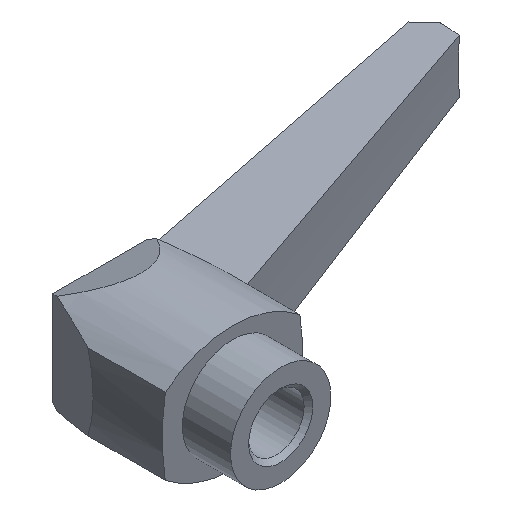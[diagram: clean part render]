
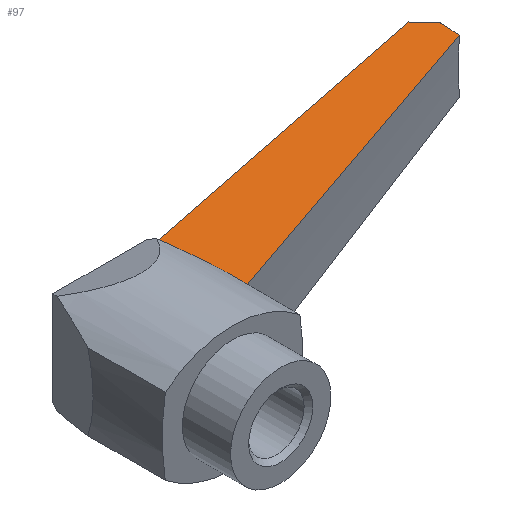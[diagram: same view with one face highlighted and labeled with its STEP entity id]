
A CAD part, isometric view. The second image highlights one B-rep face of the part: STEP entity #97.
In plain terms, the highlighted planar face has unit normal (0.035, 0, 0.999).
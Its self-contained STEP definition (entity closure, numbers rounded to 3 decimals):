
#97 = ADVANCED_FACE( '', ( #152 ), #153, .T. );
#152 = FACE_OUTER_BOUND( '', #209, .T. );
#153 = PLANE( '', #210 );
#209 = EDGE_LOOP( '', ( #373, #374, #375, #376, #377, #378 ) );
#210 = AXIS2_PLACEMENT_3D( '', #379, #380, #381 );
#373 = ORIENTED_EDGE( '', *, *, #419, .F. );
#374 = ORIENTED_EDGE( '', *, *, #415, .T. );
#375 = ORIENTED_EDGE( '', *, *, #411, .T. );
#376 = ORIENTED_EDGE( '', *, *, #409, .T. );
#377 = ORIENTED_EDGE( '', *, *, #406, .T. );
#378 = ORIENTED_EDGE( '', *, *, #397, .T. );
#379 = CARTESIAN_POINT( '', ( 0.177, 0., 10.156 ) );
#380 = DIRECTION( '', ( 0.035, 0., 0.999 ) );
#381 = DIRECTION( '', ( 0.999, 0., -0.035 ) );
#397 = EDGE_CURVE( '', #443, #455, #457, .T. );
#406 = EDGE_CURVE( '', #473, #443, #474, .T. );
#409 = EDGE_CURVE( '', #478, #473, #479, .T. );
#411 = EDGE_CURVE( '', #481, #478, #482, .T. );
#415 = EDGE_CURVE( '', #487, #481, #488, .T. );
#419 = EDGE_CURVE( '', #487, #455, #494, .F. );
#443 = VERTEX_POINT( '', #529 );
#455 = VERTEX_POINT( '', #548 );
#457 = LINE( '', #550, #551 );
#473 = VERTEX_POINT( '', #574 );
#474 = LINE( '', #575, #576 );
#478 = VERTEX_POINT( '', #581 );
#479 = LINE( '', #582, #583 );
#481 = VERTEX_POINT( '', #585 );
#482 = LINE( '', #586, #587 );
#487 = VERTEX_POINT( '', #594 );
#488 = LINE( '', #595, #596 );
#494 = LINE( '', #610, #611 );
#529 = CARTESIAN_POINT( '', ( 11.839, 44.808, 9.749 ) );
#548 = CARTESIAN_POINT( '', ( 16.661, 31.56, 9.58 ) );
#550 = CARTESIAN_POINT( '', ( 10.219, 49.26, 9.805 ) );
#551 = VECTOR( '', #663, 1000. );
#574 = CARTESIAN_POINT( '', ( 96.119, 64.277, 6.805 ) );
#575 = CARTESIAN_POINT( '', ( 96.119, 64.277, 6.805 ) );
#576 = VECTOR( '', #677, 1000. );
#581 = CARTESIAN_POINT( '', ( 100.116, 60.277, 6.666 ) );
#582 = CARTESIAN_POINT( '', ( 100.116, 60.277, 6.666 ) );
#583 = VECTOR( '', #682, 1000. );
#585 = CARTESIAN_POINT( '', ( 99.675, 55.231, 6.681 ) );
#586 = CARTESIAN_POINT( '', ( 99.675, 55.231, 6.681 ) );
#587 = VECTOR( '', #686, 1000. );
#594 = CARTESIAN_POINT( '', ( 16.661, 24.998, 9.58 ) );
#595 = CARTESIAN_POINT( '', ( 1.177, 19.358, 10.121 ) );
#596 = VECTOR( '', #692, 1000. );
#610 = CARTESIAN_POINT( '', ( 16.661, 45., 9.58 ) );
#611 = VECTOR( '', #694, 1000. );
#663 = DIRECTION( '', ( 0.342, -0.94, -0.012 ) );
#677 = DIRECTION( '', ( -0.974, -0.225, 0.034 ) );
#682 = DIRECTION( '', ( -0.707, 0.707, 0.025 ) );
#686 = DIRECTION( '', ( 0.087, 0.996, -0.003 ) );
#692 = DIRECTION( '', ( 0.939, 0.342, -0.033 ) );
#694 = DIRECTION( '', ( 0., -1., 0. ) );
